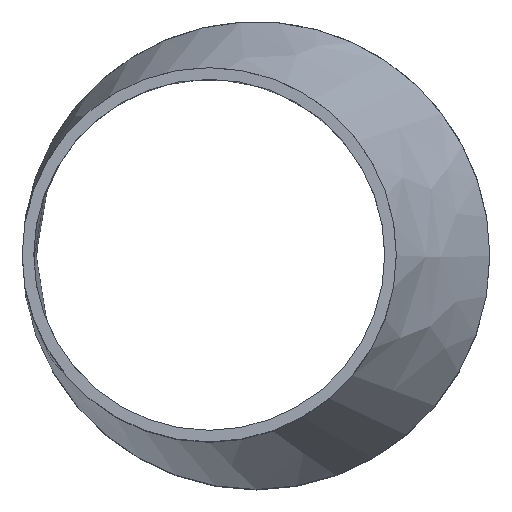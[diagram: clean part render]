
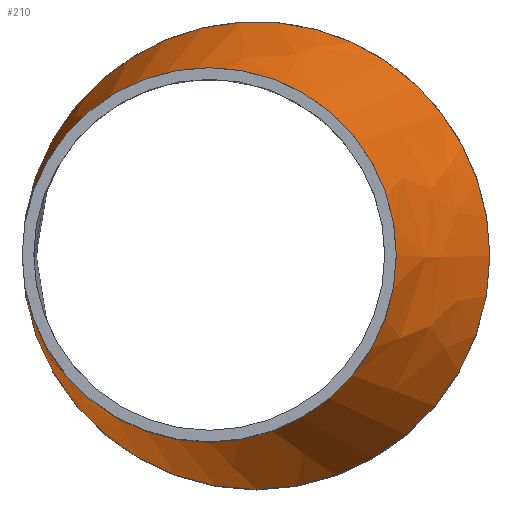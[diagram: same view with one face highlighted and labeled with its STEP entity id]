
A CAD part, top view. The second image highlights one B-rep face of the part: STEP entity #210.
In plain terms, the highlighted free-form (B-spline) face has degree [1, 2] with [2, 9] control points.
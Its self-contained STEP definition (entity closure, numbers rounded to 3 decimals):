
#15=B_SPLINE_CURVE_WITH_KNOTS($,1,(#401,#402),.UNSPECIFIED.,.F.,.F.,(2,
2),(-0.772,0.),.UNSPECIFIED.);
#17=(
BOUNDED_SURFACE()
B_SPLINE_SURFACE(1,2,((#379,#380,#381,#382,#383,#384,#385,#386,#387),(#388,
#389,#390,#391,#392,#393,#394,#395,#396)),.UNSPECIFIED.,.F.,.T.,.F.)
B_SPLINE_SURFACE_WITH_KNOTS((2,2),(3,2,2,2,3),(-0.278,0.97),
(-3.142,-1.571,0.,1.571,3.142),
 .UNSPECIFIED.)
GEOMETRIC_REPRESENTATION_ITEM()
RATIONAL_B_SPLINE_SURFACE(((1.,0.707,1.,0.707,1.,
0.707,1.,0.707,1.),(1.,0.707,1.,0.707,
1.,0.707,1.,0.707,1.)))
REPRESENTATION_ITEM($)
SURFACE()
);
#47=FACE_OUTER_BOUND($,#67,.T.);
#67=EDGE_LOOP($,(#167,#168,#169,#170,#171,#172));
#83=CIRCLE($,#231,125.);
#84=CIRCLE($,#232,125.);
#93=CIRCLE($,#243,100.);
#94=CIRCLE($,#244,100.);
#103=VERTEX_POINT($,#337);
#104=VERTEX_POINT($,#338);
#113=VERTEX_POINT($,#397);
#114=VERTEX_POINT($,#398);
#123=EDGE_CURVE($,#103,#104,#83,.T.);
#124=EDGE_CURVE($,#104,#103,#84,.T.);
#134=EDGE_CURVE($,#113,#114,#93,.T.);
#135=EDGE_CURVE($,#114,#113,#94,.T.);
#136=EDGE_CURVE($,#114,#104,#15,.T.);
#167=ORIENTED_EDGE($,*,*,#134,.F.);
#168=ORIENTED_EDGE($,*,*,#135,.F.);
#169=ORIENTED_EDGE($,*,*,#136,.T.);
#170=ORIENTED_EDGE($,*,*,#123,.F.);
#171=ORIENTED_EDGE($,*,*,#124,.F.);
#172=ORIENTED_EDGE($,*,*,#136,.F.);
#210=ADVANCED_FACE($,(#47),#17,.F.);
#231=AXIS2_PLACEMENT_3D($,#339,#278,#279);
#232=AXIS2_PLACEMENT_3D($,#340,#280,#281);
#243=AXIS2_PLACEMENT_3D($,#399,#302,#303);
#244=AXIS2_PLACEMENT_3D($,#400,#304,#305);
#278=DIRECTION('center_axis',(0.,0.,-1.));
#279=DIRECTION('ref_axis',(-1.,0.,0.));
#280=DIRECTION('center_axis',(0.,0.,-1.));
#281=DIRECTION('ref_axis',(-1.,0.,0.));
#302=DIRECTION('center_axis',(0.,0.,1.));
#303=DIRECTION('ref_axis',(-1.,0.,0.));
#304=DIRECTION('center_axis',(0.,0.,1.));
#305=DIRECTION('ref_axis',(-1.,0.,0.));
#337=CARTESIAN_POINT('',(125.,0.,158.));
#338=CARTESIAN_POINT('',(-8.393,124.718,158.));
#339=CARTESIAN_POINT('Origin',(0.,0.,158.));
#340=CARTESIAN_POINT('Origin',(0.,0.,158.));
#379=CARTESIAN_POINT('Ctrl Pts',(0.,133.695,
125.609));
#380=CARTESIAN_POINT('Ctrl Pts',(-125.,133.695,93.218));
#381=CARTESIAN_POINT('Ctrl Pts',(-125.,0.,93.218));
#382=CARTESIAN_POINT('Ctrl Pts',(-125.,-133.695,93.218));
#383=CARTESIAN_POINT('Ctrl Pts',(0.,-133.695,
125.609));
#384=CARTESIAN_POINT('Ctrl Pts',(125.,-133.695,158.));
#385=CARTESIAN_POINT('Ctrl Pts',(125.,0.,158.));
#386=CARTESIAN_POINT('Ctrl Pts',(125.,133.695,158.));
#387=CARTESIAN_POINT('Ctrl Pts',(0.,133.695,
125.609));
#388=CARTESIAN_POINT('Ctrl Pts',(-37.699,93.374,271.094));
#389=CARTESIAN_POINT('Ctrl Pts',(-125.,93.374,248.472));
#390=CARTESIAN_POINT('Ctrl Pts',(-125.,0.,248.472));
#391=CARTESIAN_POINT('Ctrl Pts',(-125.,-93.374,248.472));
#392=CARTESIAN_POINT('Ctrl Pts',(-37.699,-93.374,271.094));
#393=CARTESIAN_POINT('Ctrl Pts',(49.602,-93.374,293.716));
#394=CARTESIAN_POINT('Ctrl Pts',(49.602,0.,
293.716));
#395=CARTESIAN_POINT('Ctrl Pts',(49.602,93.374,293.716));
#396=CARTESIAN_POINT('Ctrl Pts',(-37.699,93.374,271.094));
#397=CARTESIAN_POINT('',(75.,0.,248.));
#398=CARTESIAN_POINT('',(-31.715,99.774,248.));
#399=CARTESIAN_POINT('Origin',(-25.,0.,248.));
#400=CARTESIAN_POINT('Origin',(-25.,0.,248.));
#401=CARTESIAN_POINT('Ctrl Pts',(-31.715,99.774,248.));
#402=CARTESIAN_POINT('Ctrl Pts',(-8.393,124.718,158.));
